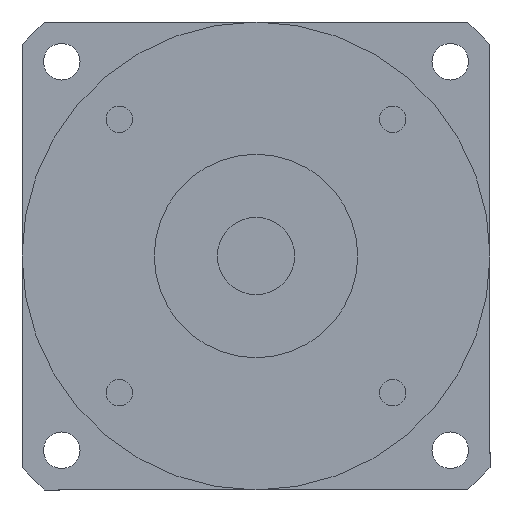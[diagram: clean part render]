
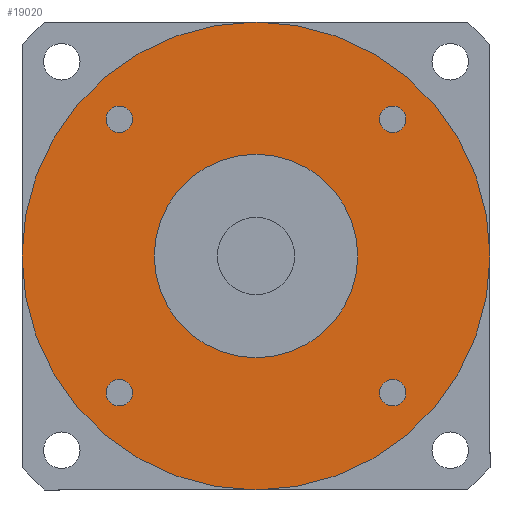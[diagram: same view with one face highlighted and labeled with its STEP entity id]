
A CAD part, left-side view. The second image highlights one B-rep face of the part: STEP entity #19020.
In plain terms, the highlighted planar face has unit normal (-1, 0, 0) as drawn and (0, 0, -1) by its records, which use the part's own axes.
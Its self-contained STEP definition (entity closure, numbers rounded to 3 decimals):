
#15860=CARTESIAN_POINT('',(33.588,-30.338,-101.));
#15870=VERTEX_POINT('',#15860);
#16050=CARTESIAN_POINT('',(33.588,-36.838,-101.));
#16060=VERTEX_POINT('',#16050);
#16090=CARTESIAN_POINT('',(33.588,-33.588,-101.));
#16100=DIRECTION('',(0.,0.,-1.));
#16110=DIRECTION('',(1.,0.,0.));
#16120=AXIS2_PLACEMENT_3D('',#16090,#16100,#16110);
#16130=CIRCLE('',#16120,3.25);
#16140=CARTESIAN_POINT('',(36.838,-33.588,-101.));
#16150=VERTEX_POINT('',#16140);
#16160=EDGE_CURVE('',#16150,#16060,#16130,.T.);
#16180=EDGE_CURVE('',#15870,#16150,#16130,.T.);
#16280=CARTESIAN_POINT('',(0.,0.,
-101.));
#16290=DIRECTION('',(0.,0.,1.));
#16300=DIRECTION('',(0.,-1.,0.));
#16310=AXIS2_PLACEMENT_3D('',#16280,#16290,#16300);
#16320=CIRCLE('',#16310,25.);
#16330=CARTESIAN_POINT('',(0.,-25.,-101.));
#16340=VERTEX_POINT('',#16330);
#16350=CARTESIAN_POINT('',(25.,0.,-101.));
#16360=VERTEX_POINT('',#16350);
#16370=EDGE_CURVE('',#16340,#16360,#16320,.T.);
#16640=CARTESIAN_POINT('',(-25.,0.,-101.));
#16650=VERTEX_POINT('',#16640);
#16680=EDGE_CURVE('',#16650,#16340,#16320,.T.);
#17950=CARTESIAN_POINT('',(57.5,0.,-101.));
#17960=VERTEX_POINT('',#17950);
#17990=CARTESIAN_POINT('',(0.,0.,
-101.));
#18000=DIRECTION('',(0.,0.,1.));
#18010=DIRECTION('',(0.,-1.,0.));
#18020=AXIS2_PLACEMENT_3D('',#17990,#18000,#18010);
#18030=CIRCLE('',#18020,57.5);
#18040=CARTESIAN_POINT('',(0.,-57.5,-101.));
#18050=VERTEX_POINT('',#18040);
#18060=EDGE_CURVE('',#18050,#17960,#18030,.T.);
#18080=CARTESIAN_POINT('',(-57.5,0.,-101.));
#18090=VERTEX_POINT('',#18080);
#18100=EDGE_CURVE('',#18090,#18050,#18030,.T.);
#18220=CARTESIAN_POINT('',(0.,0.,
-101.));
#18230=DIRECTION('',(0.,0.,1.));
#18240=DIRECTION('',(-1.,0.,0.));
#18250=AXIS2_PLACEMENT_3D('',#18220,#18230,#18240);
#18260=PLANE('',#18250);
#18270=CARTESIAN_POINT('',(33.588,33.588,-101.));
#18280=DIRECTION('',(0.,0.,-1.));
#18290=DIRECTION('',(0.,1.,0.));
#18300=AXIS2_PLACEMENT_3D('',#18270,#18280,#18290);
#18310=CIRCLE('',#18300,3.25);
#18320=CARTESIAN_POINT('',(33.588,36.838,-101.));
#18330=VERTEX_POINT('',#18320);
#18340=CARTESIAN_POINT('',(36.838,33.588,-101.));
#18350=VERTEX_POINT('',#18340);
#18360=EDGE_CURVE('',#18330,#18350,#18310,.T.);
#18370=ORIENTED_EDGE('',*,*,#18360,.F.);
#18380=CARTESIAN_POINT('',(30.338,33.588,-101.));
#18390=VERTEX_POINT('',#18380);
#18400=EDGE_CURVE('',#18350,#18390,#18310,.T.);
#18410=ORIENTED_EDGE('',*,*,#18400,.F.);
#18420=EDGE_CURVE('',#18390,#18330,#18310,.T.);
#18430=ORIENTED_EDGE('',*,*,#18420,.F.);
#18440=EDGE_LOOP('',(#18430,#18410,#18370));
#18450=FACE_BOUND('',#18440,.T.);
#18460=CARTESIAN_POINT('',(-33.588,33.588,-101.));
#18470=DIRECTION('',(0.,0.,-1.));
#18480=DIRECTION('',(-1.,0.,0.));
#18490=AXIS2_PLACEMENT_3D('',#18460,#18470,#18480);
#18500=CIRCLE('',#18490,3.25);
#18510=CARTESIAN_POINT('',(-36.838,33.588,-101.));
#18520=VERTEX_POINT('',#18510);
#18530=CARTESIAN_POINT('',(-33.588,36.838,-101.));
#18540=VERTEX_POINT('',#18530);
#18550=EDGE_CURVE('',#18520,#18540,#18500,.T.);
#18560=ORIENTED_EDGE('',*,*,#18550,.F.);
#18570=CARTESIAN_POINT('',(-33.588,30.338,-101.));
#18580=VERTEX_POINT('',#18570);
#18590=EDGE_CURVE('',#18540,#18580,#18500,.T.);
#18600=ORIENTED_EDGE('',*,*,#18590,.F.);
#18610=EDGE_CURVE('',#18580,#18520,#18500,.T.);
#18620=ORIENTED_EDGE('',*,*,#18610,.F.);
#18630=EDGE_LOOP('',(#18620,#18600,#18560));
#18640=FACE_BOUND('',#18630,.T.);
#18650=CARTESIAN_POINT('',(-33.588,-33.588,-101.));
#18660=DIRECTION('',(0.,0.,-1.));
#18670=DIRECTION('',(0.,-1.,0.));
#18680=AXIS2_PLACEMENT_3D('',#18650,#18660,#18670);
#18690=CIRCLE('',#18680,3.25);
#18700=CARTESIAN_POINT('',(-33.588,-36.838,-101.));
#18710=VERTEX_POINT('',#18700);
#18720=CARTESIAN_POINT('',(-36.838,-33.588,-101.));
#18730=VERTEX_POINT('',#18720);
#18740=EDGE_CURVE('',#18710,#18730,#18690,.T.);
#18750=ORIENTED_EDGE('',*,*,#18740,.F.);
#18760=CARTESIAN_POINT('',(-30.338,-33.588,-101.));
#18770=VERTEX_POINT('',#18760);
#18780=EDGE_CURVE('',#18730,#18770,#18690,.T.);
#18790=ORIENTED_EDGE('',*,*,#18780,.F.);
#18800=EDGE_CURVE('',#18770,#18710,#18690,.T.);
#18810=ORIENTED_EDGE('',*,*,#18800,.F.);
#18820=EDGE_LOOP('',(#18810,#18790,#18750));
#18830=FACE_BOUND('',#18820,.T.);
#18840=EDGE_CURVE('',#16360,#16650,#16320,.T.);
#18850=ORIENTED_EDGE('',*,*,#18840,.T.);
#18860=ORIENTED_EDGE('',*,*,#16370,.T.);
#18870=ORIENTED_EDGE('',*,*,#16680,.T.);
#18880=EDGE_LOOP('',(#18870,#18860,#18850));
#18890=FACE_BOUND('',#18880,.T.);
#18900=ORIENTED_EDGE('',*,*,#16160,.F.);
#18910=EDGE_CURVE('',#16060,#15870,#16130,.T.);
#18920=ORIENTED_EDGE('',*,*,#18910,.F.);
#18930=ORIENTED_EDGE('',*,*,#16180,.F.);
#18940=EDGE_LOOP('',(#18930,#18920,#18900));
#18950=FACE_BOUND('',#18940,.T.);
#18960=ORIENTED_EDGE('',*,*,#18060,.F.);
#18970=EDGE_CURVE('',#17960,#18090,#18030,.T.);
#18980=ORIENTED_EDGE('',*,*,#18970,.F.);
#18990=ORIENTED_EDGE('',*,*,#18100,.F.);
#19000=EDGE_LOOP('',(#18990,#18980,#18960));
#19010=FACE_OUTER_BOUND('',#19000,.T.);
#19020=ADVANCED_FACE('',(#18450,#18640,#18830,#18890,#18950,#19010),
#18260,.F.);
